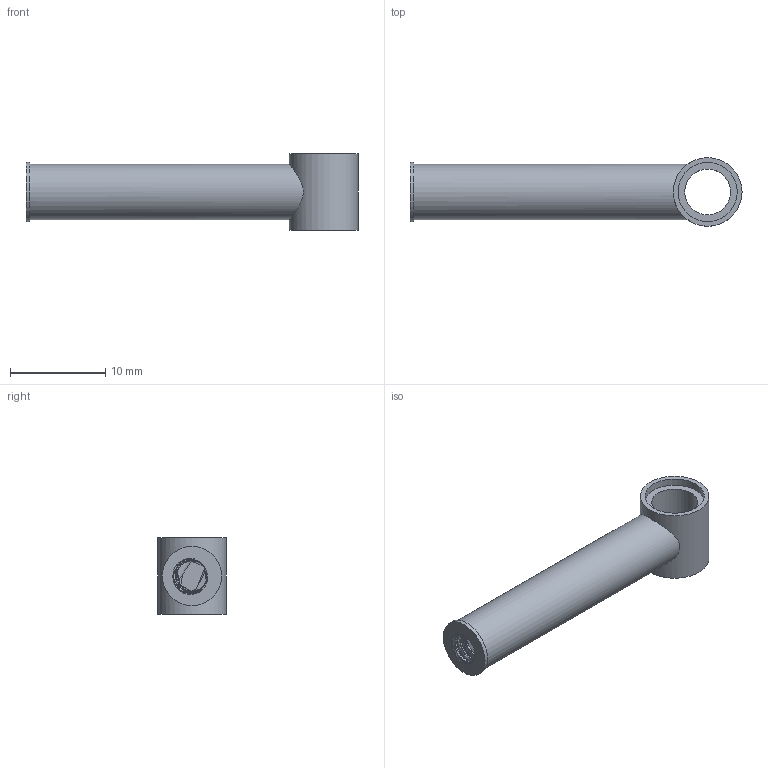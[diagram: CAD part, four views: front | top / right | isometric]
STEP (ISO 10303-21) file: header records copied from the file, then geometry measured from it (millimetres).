
FILE_DESCRIPTION(/* description */ ('Unknown'),/* implementation_level */ '2;1');
FILE_NAME(/* name */ 'Gray_4612100_a)_AVV',/* time_stamp */ '2025-07-22T00:00:43+02:00',/* author */ ('Unknown'),/* organization */ ('Unknown'),/* preprocessor_version */ 'ST-DEVELOPER v19.4',/* originating_system */ 'Solid Edge',/* authorisation */ 'Unknown');
FILE_SCHEMA (('AUTOMOTIVE_DESIGN {1 0 10303 214 3 1 1}'));
Length unit declared in the file: millimetre
Products named in the file (1): Gray_4612100_a)_AVV
Bounding box: 34.8 x 7.2 x 8 mm (x, y, z)
Volume: 648.1 mm3; surface area: 1339.6 mm2
Topology: 1 solids, 1 shells, 17 faces, 31 edges, 21 vertices
Faces by surface type: cylinder 8, plane 7, bspline 2
Full cylindrical faces by diameter (mm): 4.8 x1, 5.8 x1, 6.2 x3, 7.2 x1
Entity records: 9853 total; most frequent: CARTESIAN_POINT 9522, DIRECTION 62, ORIENTED_EDGE 48, AXIS2_PLACEMENT_3D 31, EDGE_LOOP 30, FACE_BOUND 30, EDGE_CURVE 24, VERTEX_POINT 20
